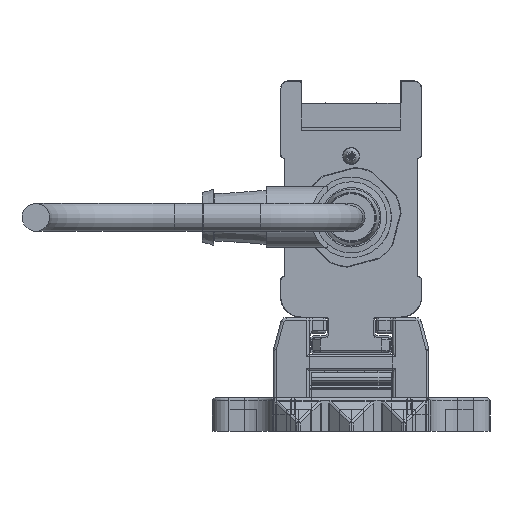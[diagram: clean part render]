
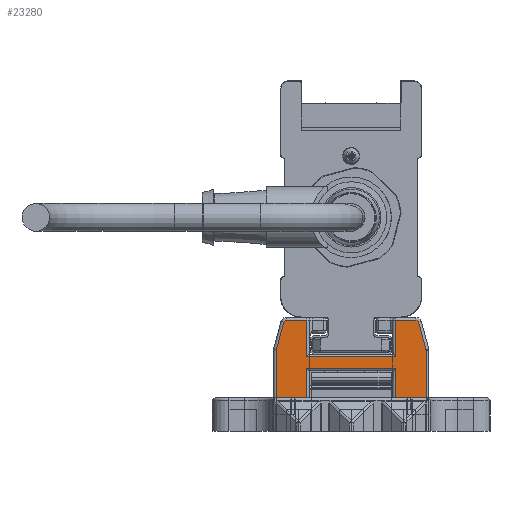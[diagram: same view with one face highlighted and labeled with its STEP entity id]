
A CAD part, left-side view. The second image highlights one B-rep face of the part: STEP entity #23280.
In plain terms, the highlighted planar face has unit normal (-1, 0, 0).
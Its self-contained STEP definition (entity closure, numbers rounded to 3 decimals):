
#23280=ADVANCED_FACE('', (#23290), #23300, .T.);
#141290=AXIS2_PLACEMENT_3D('Ax2Pl3d', #141300, #141310, #141320);
#141530=AXIS2_PLACEMENT_3D('Ax2Pl3d', #141540, #141550, #141560);
#146410=AXIS2_PLACEMENT_3D('Ax2Pl3d', #146420, #146430, #146440);
#151490=AXIS2_PLACEMENT_3D('Ax2Pl3d', #151500, #151510, #151520);
#161170=AXIS2_PLACEMENT_3D('Ax2Pl3d', #161180, #161190, #161200);
#583560=CARTESIAN_POINT('', (-747.669,-2726.345,
331.37));
#141300=CARTESIAN_POINT('HicPkt', (-747.669,-2725.379,
331.111));
#583570=CARTESIAN_POINT('', (-747.669,-2726.379,
331.111));
#583580=CARTESIAN_POINT('', (-747.669,-2725.037,
336.255));
#583600=CARTESIAN_POINT('', (-747.669,-2725.037,
336.255));
#583630=CARTESIAN_POINT('', (-747.669,-2724.554,
336.625));
#141540=CARTESIAN_POINT('HicPkt', (-747.669,-2724.554,
336.125));
#583850=CARTESIAN_POINT('', (-747.669,-2726.379,
322.625));
#583860=CARTESIAN_POINT('', (-747.669,-2720.881,
322.625));
#583870=CARTESIAN_POINT('', (-747.669,-2720.881,
322.625));
#583950=CARTESIAN_POINT('', (-747.669,-2704.881,
322.625));
#583960=CARTESIAN_POINT('', (-747.669,-2699.383,
322.625));
#583970=CARTESIAN_POINT('', (-747.669,-2699.383,
322.625));
#146420=CARTESIAN_POINT('HicPkt', (-747.669,-2701.209,
336.125));
#586440=CARTESIAN_POINT('', (-747.669,-2700.726,
336.255));
#586450=CARTESIAN_POINT('', (-747.669,-2701.209,
336.625));
#586460=CARTESIAN_POINT('', (-747.669,-2720.881,
330.025));
#586470=CARTESIAN_POINT('', (-747.669,-2704.881,
330.025));
#586480=CARTESIAN_POINT('', (-747.669,-2720.881,
330.025));
#586640=CARTESIAN_POINT('', (-747.669,-2720.881,328.005)
);
#586650=CARTESIAN_POINT('', (-747.669,-2704.881,328.005)
);
#586660=CARTESIAN_POINT('', (-747.669,-2704.881,328.005)
);
#586670=CARTESIAN_POINT('', (-747.669,-2720.881,328.005)
);
#586690=CARTESIAN_POINT('', (-747.669,-2704.881,
322.625));
#586700=CARTESIAN_POINT('', (-747.669,-2704.881,
330.025));
#586710=CARTESIAN_POINT('', (-747.669,-2704.881,
336.625));
#587560=CARTESIAN_POINT('', (-747.669,-2704.881,
336.625));
#587570=CARTESIAN_POINT('', (-747.669,-2700.726,
336.255));
#587580=CARTESIAN_POINT('', (-747.669,-2699.417,
331.37));
#587770=CARTESIAN_POINT('', (-747.669,-2699.383,
331.111));
#587780=CARTESIAN_POINT('', (-747.669,-2699.383,
331.111));
#151500=CARTESIAN_POINT('HicPkt', (-747.669,-2700.383,
331.111));
#588590=CARTESIAN_POINT('', (-747.669,-2726.379,
331.111));
#161180=CARTESIAN_POINT('HicPkt', (-747.669,-2724.554,
336.625));
#590390=CARTESIAN_POINT('', (-747.669,-2720.881,
336.625));
#590400=CARTESIAN_POINT('', (-747.669,-2720.881,
336.625));
#590410=CARTESIAN_POINT('', (-747.669,-2720.881,
336.625));
#675070=CIRCLE('Circle', #141290, 1.);
#675110=CIRCLE('Circle', #141530, 0.5);
#675690=CIRCLE('Circle', #146410, 0.5);
#676220=CIRCLE('Circle', #151490, 1.);
#141310=DIRECTION('Axis', (-1.,0.,
0.));
#141320=DIRECTION('RefDirection', (0.,
0.,-1.));
#942570=DIRECTION('', (0.,0.259,
0.966));
#141550=DIRECTION('Axis', (-1.,0.,
0.));
#141560=DIRECTION('RefDirection', (0.,
0.,-1.));
#942680=DIRECTION('', (0.,1.,0.));
#942720=DIRECTION('', (0.,1.,0.));
#146430=DIRECTION('Axis', (1.,0.,
0.));
#146440=DIRECTION('RefDirection', (0.,
0.,-1.));
#943910=DIRECTION('', (0.,-1.,0.));
#944010=DIRECTION('', (0.,1.,0.));
#944020=DIRECTION('', (0.,0.,1.));
#944040=DIRECTION('', (0.,0.,-1.));
#944050=DIRECTION('', (0.,0.,-1.));
#944480=DIRECTION('', (0.,-1.,0.));
#944490=DIRECTION('', (0.,-0.259,0.966));
#944580=DIRECTION('', (0.,0.,1.));
#151510=DIRECTION('Axis', (1.,0.,
0.));
#151520=DIRECTION('RefDirection', (0.,
0.,-1.));
#944950=DIRECTION('', (0.,0.,1.));
#161190=DIRECTION('Axis', (-1.,0.,
0.));
#161200=DIRECTION('RefDirection', (0.,
0.,-1.));
#945790=DIRECTION('', (0.,1.,0.));
#945800=DIRECTION('', (0.,0.,1.));
#1009400=EDGE_CURVE('', #1009410, #1009390, #675070, .T.);
#1009460=EDGE_CURVE('', #1009390, #1009440, #1009470, .T.);
#1009530=EDGE_CURVE('', #1009440, #1009520, #675110, .T.);
#1009980=EDGE_CURVE('', #1009970, #1009990, #1010000, .T.);
#1010140=EDGE_CURVE('', #1010130, #1010150, #1010160, .T.);
#1014500=EDGE_CURVE('', #1014510, #1014520, #675690, .T.);
#1014550=EDGE_CURVE('', #1014560, #1014570, #1014580, .T.);
#1014920=EDGE_CURVE('', #1014900, #1014930, #1014940, .T.);
#1014970=EDGE_CURVE('', #1009990, #1014900, #1014980, .T.);
#1015010=EDGE_CURVE('', #1014930, #1010130, #1015020, .T.);
#1015030=EDGE_CURVE('', #1015040, #1014560, #1015050, .T.);
#1016870=EDGE_CURVE('', #1014520, #1015040, #1016880, .T.);
#1016940=EDGE_CURVE('', #1016950, #1014510, #1016960, .T.);
#1017380=EDGE_CURVE('', #1010150, #1017390, #1017400, .T.);
#1017420=EDGE_CURVE('', #1017390, #1016950, #676220, .T.);
#1019130=EDGE_CURVE('', #1009970, #1009410, #1019140, .T.);
#1022940=EDGE_CURVE('', #1009520, #1022950, #1022960, .T.);
#1022970=EDGE_CURVE('', #1014570, #1022950, #1022980, .T.);
#1216860=EDGE_LOOP('Edge_loop', (#1216870,#1216880,#1216890,#1216900,
#1216910,#1216920,#1216930,#1216940,#1216950,#1216960,#1216970,
#1216980,#1216990,#1217000,#1217010,#1217020,#1217030,#1217040));
#23290=FACE_OUTER_BOUND('Face_outer_bound', #1216860, .T.);
#1009470=LINE('Line', #583600, #1391440);
#1010000=LINE('Line', #583860, #1391550);
#1010160=LINE('Line', #583960, #1391590);
#1014580=LINE('Line', #586460, #1392780);
#1014940=LINE('Line', #586650, #1392880);
#1014980=LINE('Line', #586670, #1392890);
#1015020=LINE('Line', #586690, #1392910);
#1015050=LINE('Line', #586700, #1392920);
#1016880=LINE('Line', #587560, #1393350);
#1016960=LINE('Line', #587570, #1393360);
#1017400=LINE('Line', #587770, #1393450);
#1019140=LINE('Line', #588590, #1393820);
#1022960=LINE('Line', #590390, #1394660);
#1022980=LINE('Line', #590410, #1394670);
#1216870=ORIENTED_EDGE('', *, *, #1022940, .T.);
#1216880=ORIENTED_EDGE('', *, *, #1022970, .F.);
#1216890=ORIENTED_EDGE('', *, *, #1014550, .F.);
#1216900=ORIENTED_EDGE('', *, *, #1015030, .F.);
#1216910=ORIENTED_EDGE('', *, *, #1016870, .F.);
#1216920=ORIENTED_EDGE('', *, *, #1014500, .F.);
#1216930=ORIENTED_EDGE('', *, *, #1016940, .F.);
#1216940=ORIENTED_EDGE('', *, *, #1017420, .F.);
#1216950=ORIENTED_EDGE('', *, *, #1017380, .F.);
#1216960=ORIENTED_EDGE('', *, *, #1010140, .F.);
#1216970=ORIENTED_EDGE('', *, *, #1015010, .F.);
#1216980=ORIENTED_EDGE('', *, *, #1014920, .F.);
#1216990=ORIENTED_EDGE('', *, *, #1014970, .F.);
#1217000=ORIENTED_EDGE('', *, *, #1009980, .F.);
#1217010=ORIENTED_EDGE('', *, *, #1019130, .T.);
#1217020=ORIENTED_EDGE('', *, *, #1009400, .T.);
#1217030=ORIENTED_EDGE('', *, *, #1009460, .T.);
#1217040=ORIENTED_EDGE('', *, *, #1009530, .T.);
#23300=PLANE('Plane', #161170);
#1391440=VECTOR('', #942570, 5.057);
#1391550=VECTOR('', #942680, 5.498);
#1391590=VECTOR('', #942720, 5.498);
#1392780=VECTOR('', #943910, 16.);
#1392880=VECTOR('', #944010, 16.);
#1392890=VECTOR('', #944020, 5.38);
#1392910=VECTOR('', #944040, 5.38);
#1392920=VECTOR('', #944050, 6.6);
#1393350=VECTOR('', #944480, 3.672);
#1393360=VECTOR('', #944490, 5.057);
#1393450=VECTOR('', #944580, 8.486);
#1393820=VECTOR('', #944950, 8.486);
#1394660=VECTOR('', #945790, 3.672);
#1394670=VECTOR('', #945800, 6.6);
#1009390=VERTEX_POINT('', #583560);
#1009410=VERTEX_POINT('', #583570);
#1009440=VERTEX_POINT('', #583580);
#1009520=VERTEX_POINT('', #583630);
#1009970=VERTEX_POINT('', #583850);
#1009990=VERTEX_POINT('', #583870);
#1010130=VERTEX_POINT('', #583950);
#1010150=VERTEX_POINT('', #583970);
#1014510=VERTEX_POINT('', #586440);
#1014520=VERTEX_POINT('', #586450);
#1014560=VERTEX_POINT('', #586470);
#1014570=VERTEX_POINT('', #586480);
#1014900=VERTEX_POINT('', #586640);
#1014930=VERTEX_POINT('', #586660);
#1015040=VERTEX_POINT('', #586710);
#1016950=VERTEX_POINT('', #587580);
#1017390=VERTEX_POINT('', #587780);
#1022950=VERTEX_POINT('', #590400);
